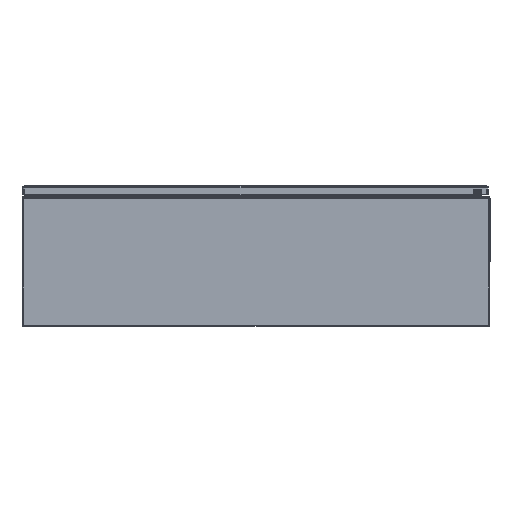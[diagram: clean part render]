
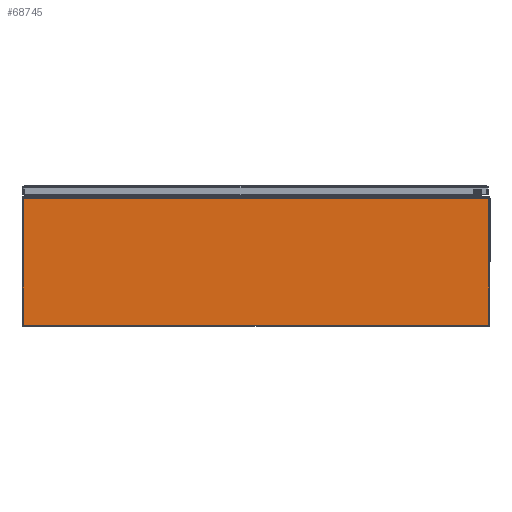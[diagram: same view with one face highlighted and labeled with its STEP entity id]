
A CAD part, front view. The second image highlights one B-rep face of the part: STEP entity #68745.
In plain terms, the highlighted planar face has unit normal (0, -1, 0).
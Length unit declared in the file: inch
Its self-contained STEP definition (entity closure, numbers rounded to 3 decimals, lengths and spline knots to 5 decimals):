
#6120 = EDGE_CURVE ( 'NONE', #80070, #80071, #59271, .T. ) ;
#6122 = EDGE_CURVE ( 'NONE', #80070, #80073, #59273, .T. ) ;
#6123 = EDGE_CURVE ( 'NONE', #80073, #80074, #59266, .T. ) ;
#6124 = EDGE_CURVE ( 'NONE', #80071, #80074, #59268, .T. ) ;
#7014 = CARTESIAN_POINT ( 'NONE',  ( 18., 0., 0.08 ) ) ;
#7015 = PLANE ( 'NONE',  #60096 ) ;
#7019 = DIRECTION ( 'NONE',  ( 0., -1., 0. ) ) ;
#7020 = DIRECTION ( 'NONE',  ( 0., 0., -1. ) ) ;
#10776 = ORIENTED_EDGE ( 'NONE', *, *, #6123, .F. ) ;
#10778 = ORIENTED_EDGE ( 'NONE', *, *, #6122, .F. ) ;
#10781 = ORIENTED_EDGE ( 'NONE', *, *, #6120, .T. ) ;
#10783 = ORIENTED_EDGE ( 'NONE', *, *, #6124, .T. ) ;
#13258 = DIRECTION ( 'NONE',  ( 0., 0., -1. ) ) ;
#13259 = CARTESIAN_POINT ( 'NONE',  ( -17.921, 0., 10.569 ) ) ;
#13261 = DIRECTION ( 'NONE',  ( 0., 0., -1. ) ) ;
#23318 = CARTESIAN_POINT ( 'NONE',  ( 18., 0., 0.08 ) ) ;
#23321 = CARTESIAN_POINT ( 'NONE',  ( 18., 0., 9.838 ) ) ;
#23326 = DIRECTION ( 'NONE',  ( -1., 0., 0. ) ) ;
#23327 = DIRECTION ( 'NONE',  ( -1., 0., 0. ) ) ;
#23328 = CARTESIAN_POINT ( 'NONE',  ( 17.921, 0., 0.08 ) ) ;
#27610 = FACE_OUTER_BOUND ( 'NONE', #78064, .T. ) ;
#55781 = CARTESIAN_POINT ( 'NONE',  ( 17.921, 0., 9.838 ) ) ;
#55782 = CARTESIAN_POINT ( 'NONE',  ( -17.921, 0., 9.838 ) ) ;
#55784 = CARTESIAN_POINT ( 'NONE',  ( 17.921, 0., 0.08 ) ) ;
#55785 = CARTESIAN_POINT ( 'NONE',  ( -17.921, 0., 0.08 ) ) ;
#59266 = LINE ( 'NONE', #23318, #59275 ) ;
#59268 = LINE ( 'NONE', #13259, #59277 ) ;
#59270 = VECTOR ( 'NONE', #23326, 39.37008 ) ;
#59271 = LINE ( 'NONE', #23321, #59270 ) ;
#59272 = VECTOR ( 'NONE', #13258, 39.37008 ) ;
#59273 = LINE ( 'NONE', #23328, #59272 ) ;
#59275 = VECTOR ( 'NONE', #23327, 39.37008 ) ;
#59277 = VECTOR ( 'NONE', #13261, 39.37008 ) ;
#60096 = AXIS2_PLACEMENT_3D ( 'NONE', #7014, #7019, #7020 ) ;
#68745 = ADVANCED_FACE ( 'NONE', ( #27610 ), #7015, .T. ) ;
#78064 = EDGE_LOOP ( 'NONE', ( #10776, #10778, #10781, #10783 ) ) ;
#80070 = VERTEX_POINT ( 'NONE', #55781 ) ;
#80071 = VERTEX_POINT ( 'NONE', #55782 ) ;
#80073 = VERTEX_POINT ( 'NONE', #55784 ) ;
#80074 = VERTEX_POINT ( 'NONE', #55785 ) ;
